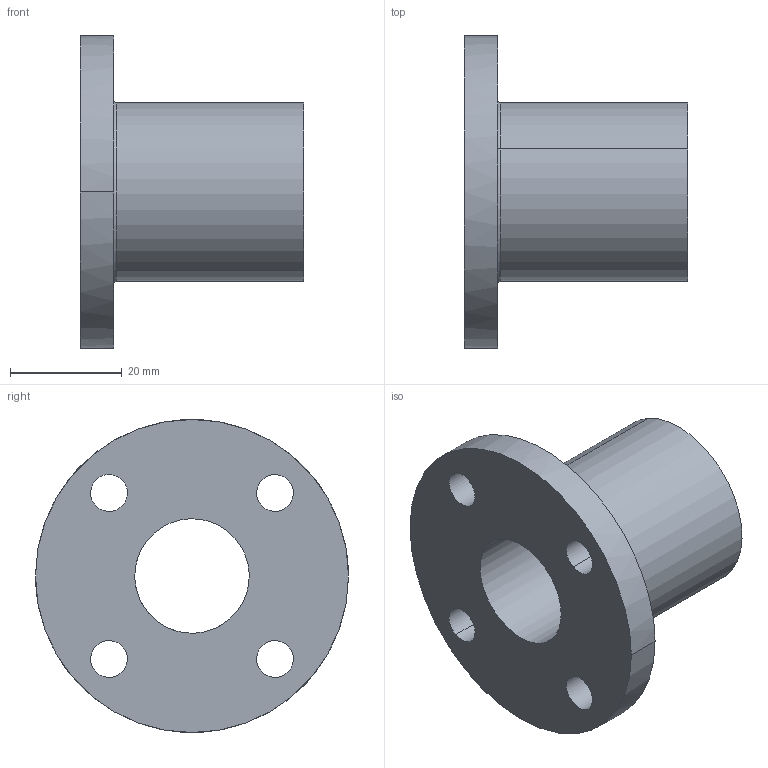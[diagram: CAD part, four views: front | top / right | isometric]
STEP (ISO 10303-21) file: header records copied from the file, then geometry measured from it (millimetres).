
FILE_DESCRIPTION(('CATIA V5 STEP Exchange'),'2;1');
FILE_NAME('C:\Users\aa\Documents\이댈\TM\TTM\TTM20.stp','2020-03-24T02:25:45+00:00',('none'),('none'),'CATIA Version 5 Release 20 SP 7 (IN-10)','CATIA V5 STEP AP203','none');
FILE_SCHEMA(('CONFIG_CONTROL_DESIGN'));
Length unit declared in the file: millimetre
Products named in the file (1): TTM20
Bounding box: 40 x 56 x 56 mm (x, y, z)
Volume: 28104.3 mm3; surface area: 11518.1 mm2
Topology: 1 solids, 1 shells, 19 faces, 46 edges, 30 vertices
Faces by surface type: cylinder 14, plane 3, torus 2
Entity records: 792 total; most frequent: CARTESIAN_POINT 304, ORIENTED_EDGE 92, DIRECTION 73, EDGE_CURVE 46, AXIS2_PLACEMENT_3D 41, EDGE_LOOP 30, VERTEX_POINT 30, CIRCLE 21
